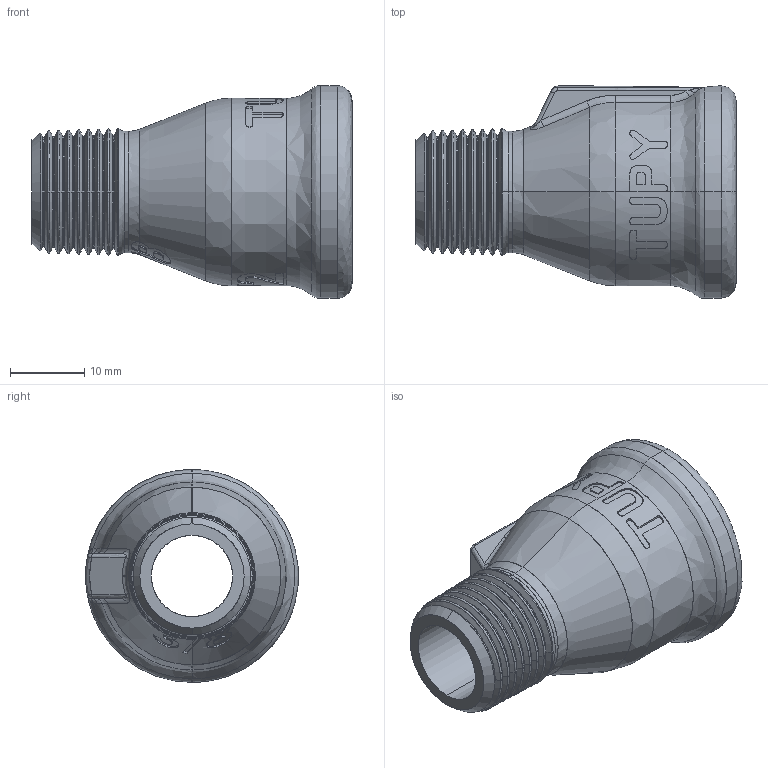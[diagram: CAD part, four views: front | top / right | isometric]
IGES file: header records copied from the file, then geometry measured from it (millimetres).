
Start section: SolidWorks IGES file using analytic representation for surfaces
Global section: file name: C:\Users\Joel Rosa\Desktop\Tubulação\12-35-OK\12-35-026.IGS; native system: SolidWorks 2011; preprocessor: SolidWorks 2011; author: Joel Rosa; date: 121209.030705; units: millimetre
Bounding box: 43 x 28.6 x 28.6 mm (x, y, z)
Surface area: 6600 mm2 (no closed solid volume)
Topology: 0 solids, 0 shells, 360 faces, 3775 edges, 3773 vertices
Faces by surface type: bspline 254, revolution 106
